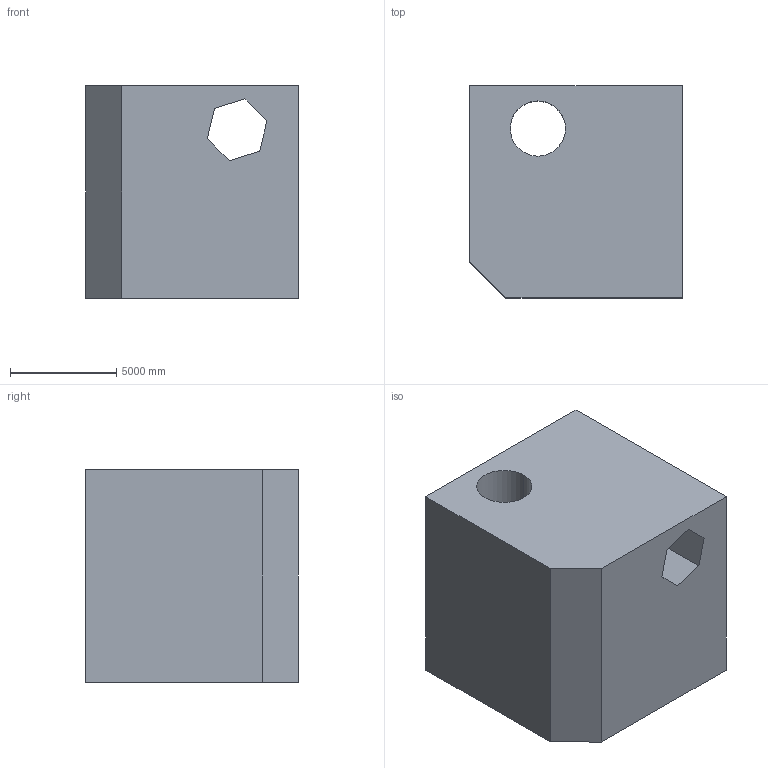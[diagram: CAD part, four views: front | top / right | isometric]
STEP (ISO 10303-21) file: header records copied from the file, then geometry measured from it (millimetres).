
FILE_DESCRIPTION (( 'STEP AP203' ), '1' );
FILE_NAME ('1424.STEP', '2022-08-18T14:23:36', ( 'user' ), ( '' ), 'SwSTEP 2.0', 'SolidWorks 2021', '' );
FILE_SCHEMA (( 'CONFIG_CONTROL_DESIGN' ));
Length unit declared in the file: centimetre
Products named in the file (1): 1424
Bounding box: 10000 x 10000 x 10000 mm (x, y, z)
Volume: 840626651059.4 mm3; surface area: 779790098.5 mm2
Topology: 1 solids, 1 shells, 23 faces, 60 edges, 40 vertices
Faces by surface type: plane 21, cylinder 2
Entity records: 783 total; most frequent: CARTESIAN_POINT 124, ORIENTED_EDGE 120, DIRECTION 112, EDGE_CURVE 60, LINE 56, VECTOR 56, VERTEX_POINT 40, EDGE_LOOP 28
